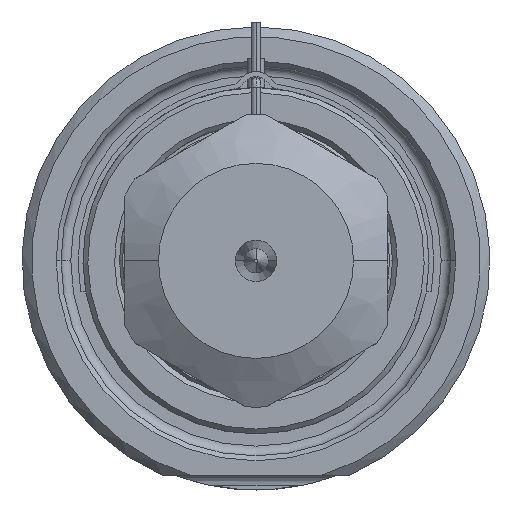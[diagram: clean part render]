
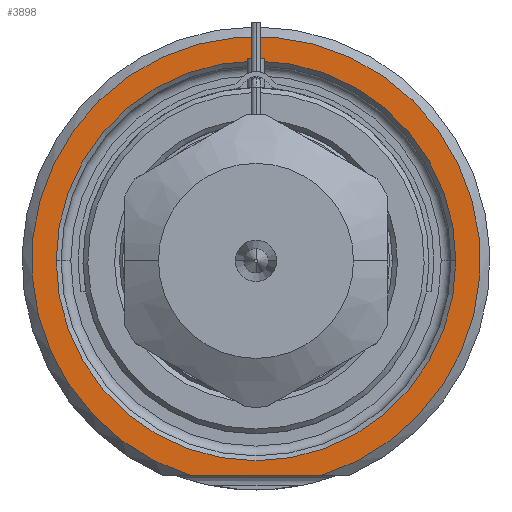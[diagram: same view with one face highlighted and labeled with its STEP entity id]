
A CAD part, front view. The second image highlights one B-rep face of the part: STEP entity #3898.
In plain terms, the highlighted planar face has unit normal (0, -1, 0).
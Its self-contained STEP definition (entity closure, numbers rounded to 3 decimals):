
#1=DIRECTION('',(1.,0.,0.));
#2=VECTOR('',#1,13.416);
#3=CARTESIAN_POINT('',(-6.708,0.,-22.));
#4=LINE('',#3,#2);
#5=CARTESIAN_POINT('',(0.,0.,0.));
#6=DIRECTION('',(0.,1.,0.));
#7=DIRECTION('',(-1.,0.,0.));
#8=AXIS2_PLACEMENT_3D('',#5,#6,#7);
#10=CARTESIAN_POINT('',(0.,0.,0.));
#11=DIRECTION('',(0.,1.,0.));
#12=DIRECTION('',(1.,0.,0.));
#13=AXIS2_PLACEMENT_3D('',#10,#11,#12);
#121=CARTESIAN_POINT('',(0.,0.,0.));
#122=DIRECTION('',(0.,-1.,0.));
#123=DIRECTION('',(0.292,0.,-0.957));
#124=AXIS2_PLACEMENT_3D('',#121,#122,#123);
#3266=CARTESIAN_POINT('',(-20.5,0.,0.));
#3267=CARTESIAN_POINT('',(20.5,0.,0.));
#3268=VERTEX_POINT('',#3266);
#3269=VERTEX_POINT('',#3267);
#3306=CARTESIAN_POINT('',(-6.708,0.,-22.));
#3307=CARTESIAN_POINT('',(6.708,0.,-22.));
#3308=VERTEX_POINT('',#3306);
#3309=VERTEX_POINT('',#3307);
#3881=CARTESIAN_POINT('',(0.,0.,0.));
#3882=DIRECTION('',(0.,-1.,0.));
#3883=DIRECTION('',(1.,0.,0.));
#3884=AXIS2_PLACEMENT_3D('',#3881,#3882,#3883);
#3885=PLANE('',#3884);
#3887=ORIENTED_EDGE('',*,*,#3886,.F.);
#3889=ORIENTED_EDGE('',*,*,#3888,.F.);
#3890=EDGE_LOOP('',(#3887,#3889));
#3891=FACE_OUTER_BOUND('',#3890,.F.);
#3893=ORIENTED_EDGE('',*,*,#3892,.F.);
#3895=ORIENTED_EDGE('',*,*,#3894,.F.);
#3896=EDGE_LOOP('',(#3893,#3895));
#3897=FACE_BOUND('',#3896,.F.);
#3898=ADVANCED_FACE('',(#3891,#3897),#3885,.T.);
#9=CIRCLE('',#8,20.5);
#14=CIRCLE('',#13,20.5);
#125=CIRCLE('',#124,23.);
#3886=EDGE_CURVE('',#3308,#3309,#4,.T.);
#3888=EDGE_CURVE('',#3309,#3308,#125,.T.);
#3892=EDGE_CURVE('',#3268,#3269,#9,.T.);
#3894=EDGE_CURVE('',#3269,#3268,#14,.T.);
